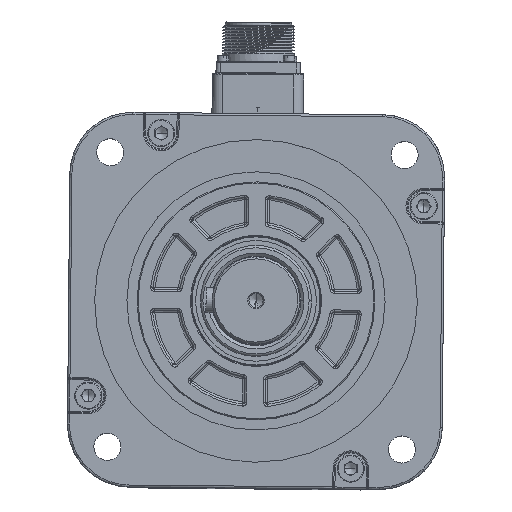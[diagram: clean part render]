
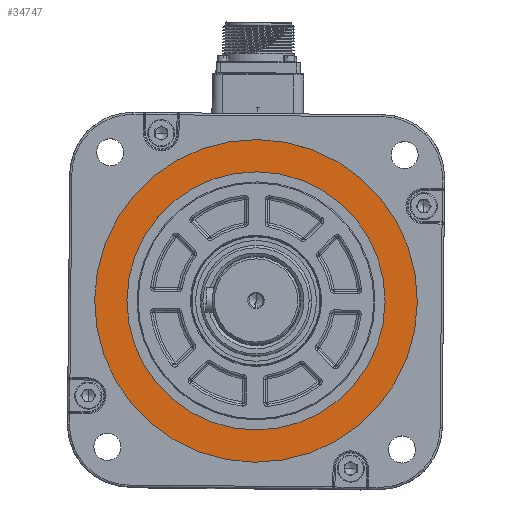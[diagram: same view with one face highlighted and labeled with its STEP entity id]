
A CAD part, top view. The second image highlights one B-rep face of the part: STEP entity #34747.
In plain terms, the highlighted planar face has unit normal (0, 0, 1) as drawn and (0, 0, -1) by its records, which use the part's own axes.
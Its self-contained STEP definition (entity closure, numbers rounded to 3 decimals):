
#1415 = CARTESIAN_POINT ( 'NONE',  ( 0., 0., 1.5 ) ) ;
#4467 = AXIS2_PLACEMENT_3D ( 'NONE', #1415, #108991, #44159 ) ;
#4762 = DIRECTION ( 'NONE',  ( -1., 0., 0. ) ) ;
#5994 = CARTESIAN_POINT ( 'NONE',  ( 62., 0., 1.5 ) ) ;
#6182 = CARTESIAN_POINT ( 'NONE',  ( 0., 0., 1.5 ) ) ;
#6424 = CARTESIAN_POINT ( 'NONE',  ( -77.5, 0., 1.5 ) ) ;
#8864 = EDGE_CURVE ( 'NONE', #41907, #61028, #80508, .T. ) ;
#9463 = DIRECTION ( 'NONE',  ( 0., 0., -1. ) ) ;
#9480 = EDGE_CURVE ( 'NONE', #61028, #41907, #68342, .T. ) ;
#18728 = AXIS2_PLACEMENT_3D ( 'NONE', #6182, #48876, #4762 ) ;
#21768 = DIRECTION ( 'NONE',  ( -1., 0., 0. ) ) ;
#23505 = AXIS2_PLACEMENT_3D ( 'NONE', #117565, #126186, #115704 ) ;
#33167 = EDGE_LOOP ( 'NONE', ( #135772, #57486 ) ) ;
#34747 = ADVANCED_FACE ( 'NONE', ( #138643, #140359 ), #40851, .T. ) ;
#40851 = PLANE ( 'NONE',  #23505 ) ;
#41907 = VERTEX_POINT ( 'NONE', #97999 ) ;
#44159 = DIRECTION ( 'NONE',  ( -1., 0., 0. ) ) ;
#48876 = DIRECTION ( 'NONE',  ( 0., 0., -1. ) ) ;
#57486 = ORIENTED_EDGE ( 'NONE', *, *, #96841, .T. ) ;
#59167 = VERTEX_POINT ( 'NONE', #107825 ) ;
#61028 = VERTEX_POINT ( 'NONE', #6424 ) ;
#62967 = DIRECTION ( 'NONE',  ( -1., 0., 0. ) ) ;
#68342 = CIRCLE ( 'NONE', #18728, 77.5 ) ;
#74813 = CIRCLE ( 'NONE', #105684, 62. ) ;
#76111 = CIRCLE ( 'NONE', #4467, 62. ) ;
#80508 = CIRCLE ( 'NONE', #122145, 77.5 ) ;
#84728 = VERTEX_POINT ( 'NONE', #5994 ) ;
#90197 = ORIENTED_EDGE ( 'NONE', *, *, #9480, .T. ) ;
#96841 = EDGE_CURVE ( 'NONE', #84728, #59167, #76111, .T. ) ;
#97999 = CARTESIAN_POINT ( 'NONE',  ( 77.5, 0., 1.5 ) ) ;
#102504 = EDGE_LOOP ( 'NONE', ( #90197, #118697 ) ) ;
#105684 = AXIS2_PLACEMENT_3D ( 'NONE', #110271, #106968, #62967 ) ;
#106968 = DIRECTION ( 'NONE',  ( 0., 0., 1. ) ) ;
#107010 = CARTESIAN_POINT ( 'NONE',  ( 0., 0., 1.5 ) ) ;
#107825 = CARTESIAN_POINT ( 'NONE',  ( -62., 0., 1.5 ) ) ;
#108991 = DIRECTION ( 'NONE',  ( 0., 0., 1. ) ) ;
#110271 = CARTESIAN_POINT ( 'NONE',  ( 0., 0., 1.5 ) ) ;
#112640 = EDGE_CURVE ( 'NONE', #59167, #84728, #74813, .T. ) ;
#115704 = DIRECTION ( 'NONE',  ( -1., 0., 0. ) ) ;
#117565 = CARTESIAN_POINT ( 'NONE',  ( 0., 0., 1.5 ) ) ;
#118697 = ORIENTED_EDGE ( 'NONE', *, *, #8864, .T. ) ;
#122145 = AXIS2_PLACEMENT_3D ( 'NONE', #107010, #9463, #21768 ) ;
#126186 = DIRECTION ( 'NONE',  ( 0., 0., -1. ) ) ;
#135772 = ORIENTED_EDGE ( 'NONE', *, *, #112640, .T. ) ;
#138643 = FACE_BOUND ( 'NONE', #33167, .T. ) ;
#140359 = FACE_OUTER_BOUND ( 'NONE', #102504, .T. ) ;
